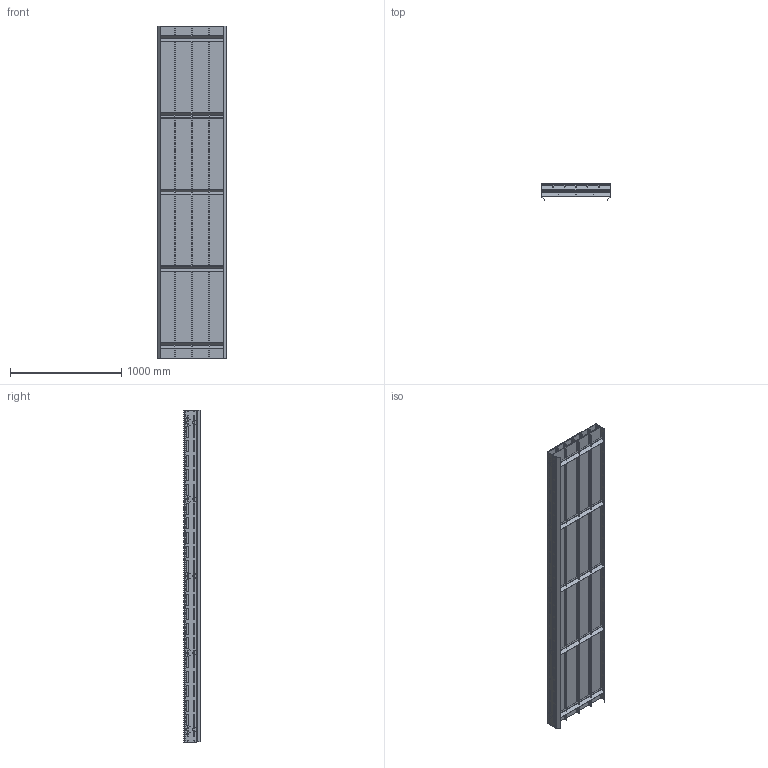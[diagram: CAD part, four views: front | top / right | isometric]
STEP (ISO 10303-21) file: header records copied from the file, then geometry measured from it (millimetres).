
FILE_DESCRIPTION (( 'STEP AP214' ), '1' );
FILE_NAME ('03.102S620.N FS-620-MTS2-100.INOX straight section L=2990.STEP', '2025-02-11T10:31:13', ( '' ), ( '' ), 'SwSTEP 2.0', 'SolidWorks 2024', '' );
FILE_SCHEMA (( 'AUTOMOTIVE_DESIGN' ));
Length unit declared in the file: millimetre
Products named in the file (1): 03.102S620.N FS-620-MTS2-100.INOX straight section L=2990
Bounding box: 625.5 x 145.63 x 2990 mm (x, y, z)
Volume: 39844617.9 mm3; surface area: 13382535 mm2
Topology: 24 solids, 24 shells, 1608 faces, 4680 edges, 3120 vertices
Faces by surface type: cylinder 930, plane 678
Entity records: 55406 total; most frequent: DIRECTION 9750, CARTESIAN_POINT 9433, ORIENTED_EDGE 9360, EDGE_CURVE 4680, AXIS2_PLACEMENT_3D 3469, VERTEX_POINT 3120, VECTOR 2812, LINE 2812
